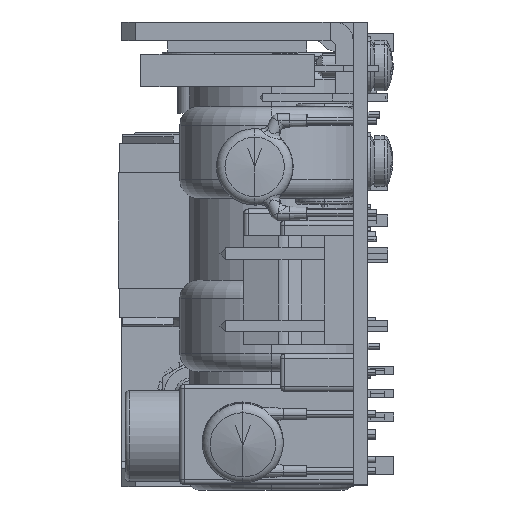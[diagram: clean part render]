
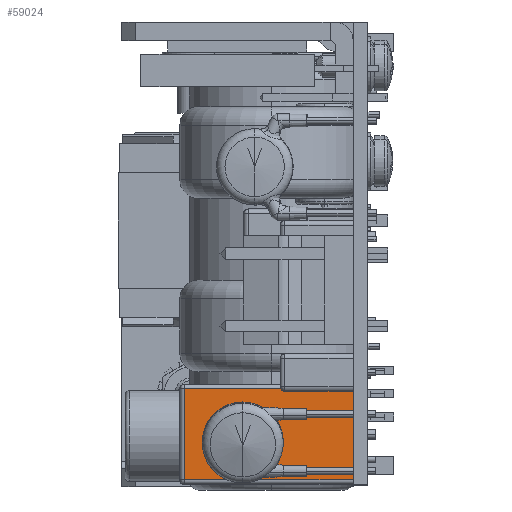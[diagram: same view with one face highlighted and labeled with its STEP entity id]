
A CAD part, left-side view. The second image highlights one B-rep face of the part: STEP entity #59024.
In plain terms, the highlighted planar face has unit normal (-1, 0, 0.001) as drawn and (0, 0, -1) by its records, which use the part's own axes.
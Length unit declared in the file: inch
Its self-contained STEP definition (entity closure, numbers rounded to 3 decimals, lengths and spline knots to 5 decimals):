
#95 = CARTESIAN_POINT ( 'NONE',  ( -0.19685, 0., -0.35433 ) ) ;
#4171 = FACE_OUTER_BOUND ( 'NONE', #56072, .T. ) ;
#4342 = DIRECTION ( 'NONE',  ( 1., 0., 0. ) ) ;
#4344 = VECTOR ( 'NONE', #4342, 39.37008 ) ;
#4365 = DIRECTION ( 'NONE',  ( -1., 0., 0. ) ) ;
#4366 = VECTOR ( 'NONE', #4365, 39.37008 ) ;
#4367 = CARTESIAN_POINT ( 'NONE',  ( -0.21654, 0., -0.35433 ) ) ;
#4369 = LINE ( 'NONE', #4367, #4366 ) ;
#4376 = CARTESIAN_POINT ( 'NONE',  ( -0.21654, 0.72835, -0.35433 ) ) ;
#4390 = LINE ( 'NONE', #4376, #4344 ) ;
#4497 = VECTOR ( 'NONE', #4535, 39.37008 ) ;
#4513 = LINE ( 'NONE', #4537, #4497 ) ;
#4535 = DIRECTION ( 'NONE',  ( 0., -1., 0. ) ) ;
#4537 = CARTESIAN_POINT ( 'NONE',  ( 0.19685, 0.74803, -0.35433 ) ) ;
#4597 = DIRECTION ( 'NONE',  ( 0., 1., 0. ) ) ;
#4600 = VECTOR ( 'NONE', #4597, 39.37008 ) ;
#4606 = CARTESIAN_POINT ( 'NONE',  ( -0.19685, 0.72835, -0.35433 ) ) ;
#4609 = CARTESIAN_POINT ( 'NONE',  ( 0.19685, 0.72835, -0.35433 ) ) ;
#4623 = CARTESIAN_POINT ( 'NONE',  ( -0.19685, 0.74803, -0.35433 ) ) ;
#4624 = LINE ( 'NONE', #4623, #4600 ) ;
#4921 = DIRECTION ( 'NONE',  ( 1., 0., 0. ) ) ;
#4922 = DIRECTION ( 'NONE',  ( 0., 0., 1. ) ) ;
#4924 = CARTESIAN_POINT ( 'NONE',  ( -0.21654, 0.74803, -0.35433 ) ) ;
#4926 = AXIS2_PLACEMENT_3D ( 'NONE', #4924, #4922, #4921 ) ;
#4948 = PLANE ( 'NONE',  #4926 ) ;
#50787 = ORIENTED_EDGE ( 'NONE', *, *, #56022, .T. ) ;
#52883 = VERTEX_POINT ( 'NONE', #62057 ) ;
#53276 = VERTEX_POINT ( 'NONE', #95 ) ;
#56022 = EDGE_CURVE ( 'NONE', #52883, #53276, #4369, .T. ) ;
#56072 = EDGE_LOOP ( 'NONE', ( #58031, #58377, #50787, #57874 ) ) ;
#56149 = EDGE_CURVE ( 'NONE', #58090, #58021, #4390, .T. ) ;
#57832 = EDGE_CURVE ( 'NONE', #58021, #52883, #4513, .T. ) ;
#57874 = ORIENTED_EDGE ( 'NONE', *, *, #58005, .T. ) ;
#58005 = EDGE_CURVE ( 'NONE', #53276, #58090, #4624, .T. ) ;
#58021 = VERTEX_POINT ( 'NONE', #4609 ) ;
#58031 = ORIENTED_EDGE ( 'NONE', *, *, #56149, .T. ) ;
#58090 = VERTEX_POINT ( 'NONE', #4606 ) ;
#58377 = ORIENTED_EDGE ( 'NONE', *, *, #57832, .T. ) ;
#59024 = ADVANCED_FACE ( 'NONE', ( #4171 ), #4948, .F. ) ;
#62057 = CARTESIAN_POINT ( 'NONE',  ( 0.19685, 0., -0.35433 ) ) ;
